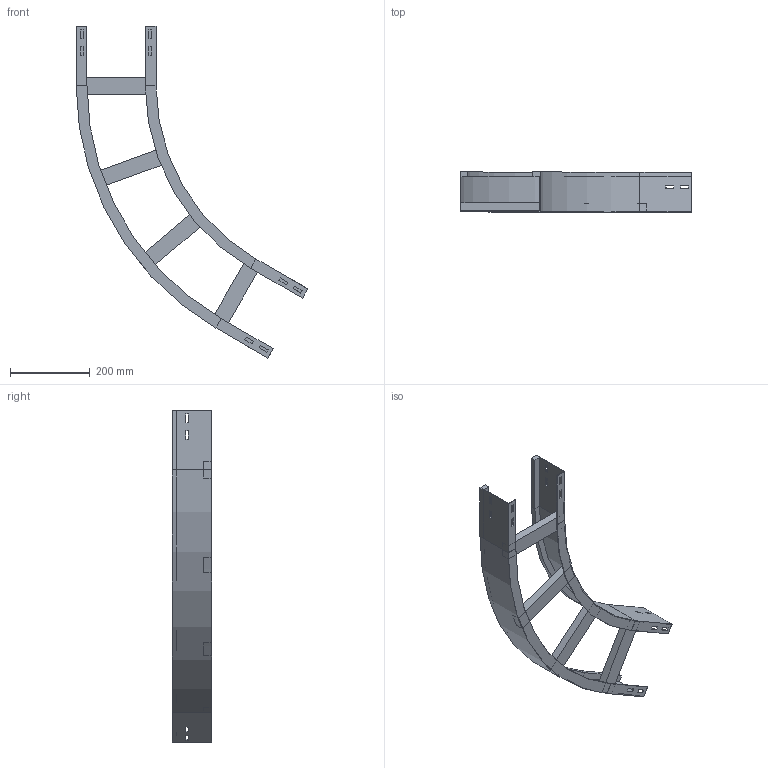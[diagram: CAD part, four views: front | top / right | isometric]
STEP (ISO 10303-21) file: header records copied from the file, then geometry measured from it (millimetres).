
FILE_DESCRIPTION (( 'STEP AP214' ), '1' );
FILE_NAME ('13B5D200.step', '2025-02-21T15:17:03', ( '' ), ( '' ), 'SwSTEP 2.0', 'SolidWorks 2023', '' );
FILE_SCHEMA (( 'AUTOMOTIVE_DESIGN' ));
Length unit declared in the file: millimetre
Products named in the file (4): 13B5D200; A2_LONGH.ESTERNO 60°_H100_R500+200; TRAVERSINO_200; A2_LONGH.INTERNO 60°_H100_R500
Assembly tree (6 placements, depth 2):
  13B5D200
    A2_LONGH.INTERNO 60°_H100_R500
    A2_LONGH.ESTERNO 60°_H100_R500+200
    TRAVERSINO_200  x4
Bounding box: 579.9 x 100 x 831.22 mm (x, y, z)
Volume: 1450745.6 mm3; surface area: 631038.2 mm2
Topology: 6 solids, 6 shells, 140 faces, 352 edges, 224 vertices
Faces by surface type: plane 132, cylinder 8
Entity records: 3829 total; most frequent: CARTESIAN_POINT 647, ORIENTED_EDGE 632, DIRECTION 594, EDGE_CURVE 316, VECTOR 300, LINE 300, VERTEX_POINT 200, EDGE_LOOP 154
